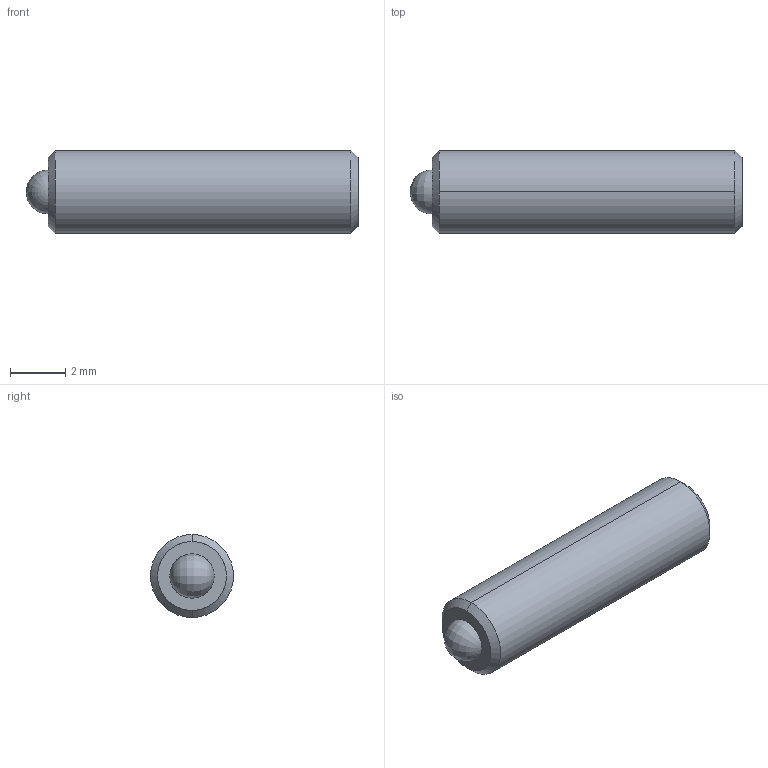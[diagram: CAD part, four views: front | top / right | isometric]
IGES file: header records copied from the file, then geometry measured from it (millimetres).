
Start section: SolidWorks IGES file using analytic representation for surfaces
Global section: file name: C:\Users\workpc\Desktop\KMA Solidworks\TS3-20 Series\TS3-20-12.IGS; native system: SolidWorks 2013; preprocessor: SolidWorks 2013; author: workpc; date: 130213.112013; units: millimetre
Bounding box: 12 x 3 x 3 mm (x, y, z)
Surface area: 139.2 mm2 (no closed solid volume)
Topology: 0 solids, 0 shells, 20 faces, 172 edges, 168 vertices
Faces by surface type: revolution 10, bspline 10
